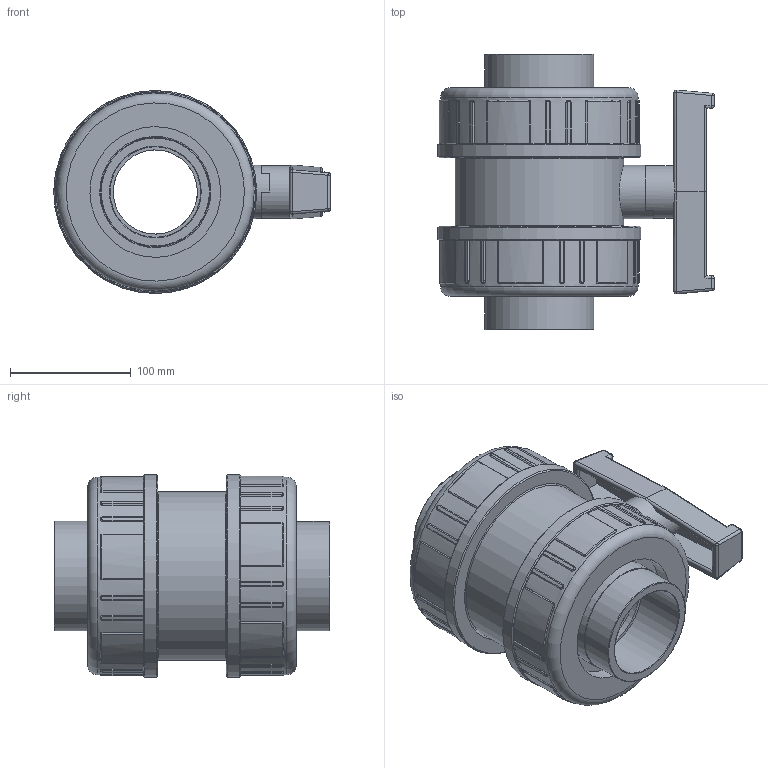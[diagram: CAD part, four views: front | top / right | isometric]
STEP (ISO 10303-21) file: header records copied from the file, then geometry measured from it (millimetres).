
FILE_DESCRIPTION(/* description */ (''),/* implementation_level */ '2;1');
FILE_NAME(/* name */ 'C:\Users\POLYPIPE\Desktop\DATASET INVENTOR\LIBRERIA EFFAST\3D_VALVOLE\3D_VALVOLE A SFERA\3D_BV\3D_BDRBVD\3D_BDRBVD0750.stp',/* time_stamp */ '2018-01-23T15:59:50+01:00',/* author */ ('POLYPIPE'),/* organization */ (''),/* preprocessor_version */ 'ST-DEVELOPER v16.1',/* originating_system */ 'Autodesk Inventor 2016',/* authorisation */ '');
FILE_SCHEMA (('CONFIG_CONTROL_DESIGN'));
Length unit declared in the file: centimetre
Products named in the file (1): 3D_BDRBVD0750
Bounding box: 228.73 x 228 x 167.97 mm (x, y, z)
Volume: 2625570.9 mm3; surface area: 371911.7 mm2
Topology: 2 solids, 3 shells, 488 faces, 1212 edges, 751 vertices
Faces by surface type: cylinder 166, bspline 148, plane 136, torus 22, sphere 12, cone 4
Full cylindrical faces by diameter (mm): 29.8 x1, 43.5 x1, 44.1 x1, 69.7 x2, 75 x2, 76.8 x1, 90.5 x2, 92 x2, 108.2 x2, 132 x2, 137 x2, 139.5 x1, 142.5 x2, 163.5 x2, 168 x2
Entity records: 58255 total; most frequent: CARTESIAN_POINT 46899, ORIENTED_EDGE 2334, DIRECTION 2060, EDGE_CURVE 1167, AXIS2_PLACEMENT_3D 786, VERTEX_POINT 743, EDGE_LOOP 550, STYLED_ITEM 490
